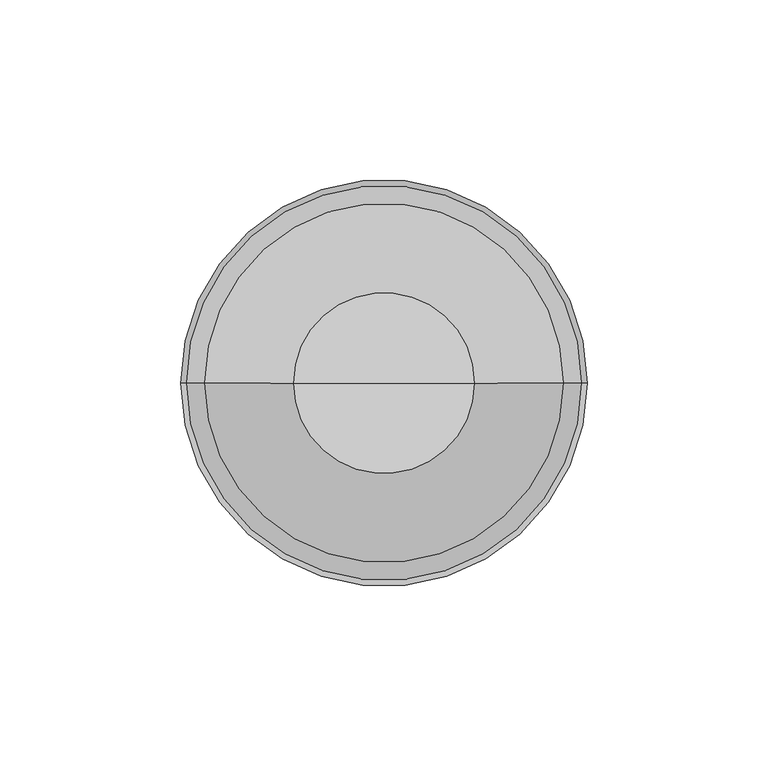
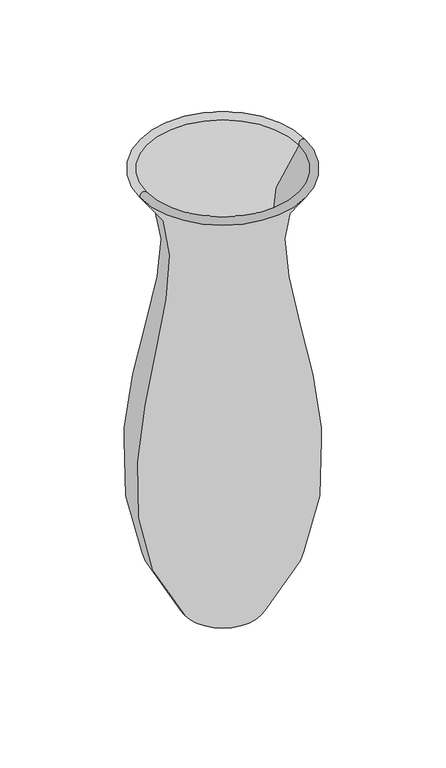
"""IFC4 building model written with IfcOpenShell, lengths in millimetres: proxy geometry, Vaso estreito : Vaso estreito."""

from ifc_helpers import new_model, si_unit, point, frame, origin, place, context, project, spatial, circle_curve, ellipse_curve, trimmed, source, transform, mapped, element, save
from ifc_brep_helpers import plane_surface, revolved_surface, spline_curve, advanced_brep


def specialty_equipment_48de4780(model_context):
    return source(origin(), model_context, "Body", "AdvancedBrep", [
        advanced_brep(
        [(0.0, 0.0, 0.0), (-25.0, 0.0, 0.0), (25.0, 0.0, 0.0), (25.0, 0.0, 10.0), (-25.0, 0.0, 10.0), (0.0, 0.0, 10.0), (50.0, 0.0, 300.0), (-50.0, 0.0, 300.0), (54.2851751, 0.0, 300.0), (-54.2851751, 0.0, 300.0)],
        [
            (0, 1),
            (1, 2, circle_curve(frame((0.0, 0.0, 0.0), z_axis=(0.0, 0.0, -1.0), x_axis=(-1.0, 0.0, 0.0)), 25.0)),
            (2, 0),
            (2, 1, circle_curve(frame((0.0, 0.0, 0.0), z_axis=(0.0, 0.0, -1.0), x_axis=(-1.0, 0.0, 0.0)), 25.0)),
            (3, 4, circle_curve(frame((0.0, 0.0, 10.0), z_axis=(0.0, 0.0, 1.0), x_axis=(-1.0, 0.0, 0.0)), 25.0)),
            (4, 5),
            (5, 3),
            (4, 3, circle_curve(frame((0.0, 0.0, 10.0), z_axis=(0.0, 0.0, 1.0), x_axis=(-1.0, 0.0, 0.0)), 25.0)),
            (6, 7, circle_curve(frame((0.0, 0.0, 300.0), z_axis=(0.0, 0.0, 1.0), x_axis=(-1.0, 0.0, 0.0)), 50.0)),
            (7, 4, spline_curve(3, [(-50.0, 0.0, 300.0), (9.367320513, 0.0, 240.632679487), (-98.591617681, 0.0, 137.464420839), (-25.0, 0.0, 10.0)], [4, 4], [0.0, 0.416086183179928])),
            (3, 6, spline_curve(3, [(25.0, 0.0, 10.0), (98.591617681, 0.0, 137.464420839), (-9.367320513, 0.0, 240.632679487), (50.0, 0.0, 300.0)], [4, 4], [0.0, 0.416086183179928])),
            (7, 6, circle_curve(frame((0.0, 0.0, 300.0), z_axis=(0.0, 0.0, 1.0), x_axis=(-1.0, 0.0, 0.0)), 50.0)),
            (8, 9, circle_curve(frame((0.0, 0.0, 300.0), z_axis=(0.0, 0.0, 1.0), x_axis=(-1.0, 0.0, 0.0)), 54.2851751)),
            (9, 7, circle_curve(frame((-52.1425876, 0.0, 301.1876557), z_axis=(0.0, 1.0, 0.0), x_axis=(1.0, 0.0, 0.0)), 2.4497362)),
            (6, 8, circle_curve(frame((52.1425876, 0.0, 301.1876557), z_axis=(0.0, 1.0, 0.0), x_axis=(-1.0, 0.0, 0.0)), 2.4497362)),
            (9, 8, circle_curve(frame((0.0, 0.0, 300.0), z_axis=(0.0, 0.0, 1.0), x_axis=(-1.0, 0.0, 0.0)), 54.2851751)),
            (1, 9, spline_curve(3, [(-25.0, 0.0, 0.0), (-109.490958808, 0.0, 116.291828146), (8.497095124, 0.0, 245.424205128), (-54.2851751, 0.0, 300.0)], [4, 4], [0.0, 0.43946856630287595])),
            (8, 2, spline_curve(3, [(54.2851751, 0.0, 300.0), (-8.497095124, 0.0, 245.424205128), (109.490958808, 0.0, 116.291828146), (25.0, 0.0, 0.0)], [4, 4], [0.0, 0.43946856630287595])),
        ],
        [
            plane_surface(frame((0.0, 0.0, 0.0), z_axis=(0.0, 0.0, -1.0), x_axis=(-1.0, 0.0, 0.0))),
            plane_surface(frame((0.0, 0.0, 10.0), z_axis=(0.0, 0.0, 1.0), x_axis=(-1.0, 0.0, 0.0))),
            revolved_surface(spline_curve(3, [(-25.0, 0.0, 10.0), (-98.591617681, 0.0, 137.464420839), (9.367320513, 0.0, 240.632679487), (-50.0, 0.0, 300.0)], [4, 4], [0.0, 0.416086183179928]), (0.0, 0.0, 315.0), (0.0, 0.0, -1.0)),
            revolved_surface(trimmed(ellipse_curve(frame((-52.1425876, 0.0, 301.1876557), z_axis=(0.0, -1.0, 0.0), x_axis=(1.0, 0.0, 0.0)), 2.4497362, 2.4497362), [point((-50.0, 0.0, 300.0))], [point((-54.2851751, 0.0, 300.0))], True, "CARTESIAN"), (0.0, 0.0, 315.0), (0.0, 0.0, -1.0)),
            revolved_surface(spline_curve(3, [(-54.2851751, 0.0, 300.0), (8.497095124, 0.0, 245.424205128), (-109.490958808, 0.0, 116.291828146), (-25.0, 0.0, 0.0)], [4, 4], [0.0, 0.43946856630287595]), (0.0, 0.0, 315.0), (0.0, 0.0, -1.0)),
        ],
        [
            (0, [[1, 2, 3]]),
            (0, [[-3, 4, -1]]),
            (1, [[5, 6, 7]]),
            (1, [[8, -7, -6]]),
            (2, [[9, 10, -5, 11]]),
            (2, [[12, -11, -8, -10]]),
            (3, [[13, 14, -9, 15]]),
            (3, [[16, -15, -12, -14]]),
            (4, [[-2, 17, -13, 18]]),
            (4, [[-4, -18, -16, -17]]),
        ],
    ),
    ])


if __name__ == "__main__":
    model = new_model("IFC4")
    model_context = context("Model", 3, world=origin())
    ifc_project = project(units=[si_unit("LENGTHUNIT", "METRE", prefix="MILLI")], contexts=[model_context])
    site = spatial("IfcSite", under=ifc_project)
    building = spatial("IfcBuilding", under=site)
    placement = place(None, origin())
    specialty_equipment_shape = specialty_equipment_48de4780(model_context)
    element("IfcBuildingElementProxy", 1, Name="Vaso estreito : Vaso estreito", ObjectType="Vaso estreito : Vaso estreito", at=placement, inside=building, context=model_context, shape_type="MappedRepresentation", body=[
        mapped(specialty_equipment_shape, transform((0.0, 0.0, 0.0), x_axis=(1.0, 0.0, 0.0), y_axis=(0.0, 1.0, 0.0), z_axis=(0.0, 0.0, 1.0))),
    ])
    save(model, "model.ifc")
